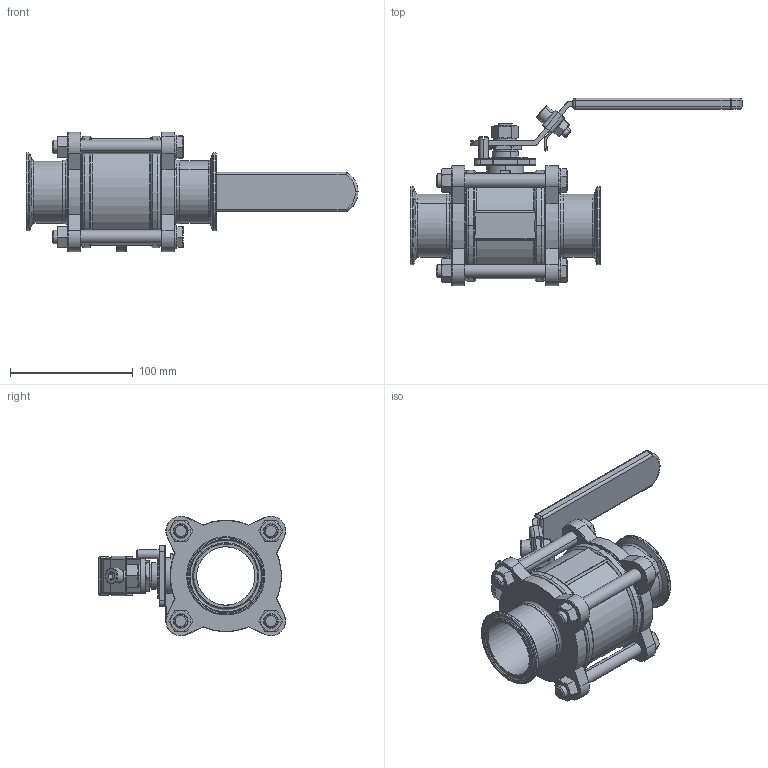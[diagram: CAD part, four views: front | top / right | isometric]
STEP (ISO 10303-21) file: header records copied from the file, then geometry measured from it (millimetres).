
FILE_DESCRIPTION (( 'STEP AP203' ), '1' );
FILE_NAME ('BAV-C-2.0.STEP', '2019-06-17T05:46:06', ( '' ), ( '' ), 'SwSTEP 2.0', 'SolidWorks 2014', '' );
FILE_SCHEMA (( 'CONFIG_CONTROL_DESIGN' ));
Length unit declared in the file: millimetre
Products named in the file (21): 2WAY-CAP-C-2.0; 2WAY-HANDLE-1.5-2.0-2; 2WAY-BOLT NUT-1.5-2.0; 2WAY-HANDLE-1.5-2.0; BAV-C-2.0; 2WAY-STEM-1.5-2.0; 2WAY-BODY-2.0; 2WAY-GASKET-2.0; 2WAY-HANDLE NUT-1.5-2.0; 2WAY-STEM PACKINGS-1.5-2.0; 2WAY-STOP PIN-1.5-2.0; 2WAY-HANDLE-1.5-2.0-1; 2WAY-BOLT WASHERS-1.5-2.0; 2WAY-HANDLE-1.5-2.0-3-1; 2WAY-HANDLE WASHERS-1.5-2.0; 2WAY-THRUST WASHER-1.5-2.0; 2WAY-SEAT-2.0; 2WAY-HANDLE-1.5-2.0-3; 2WAY-GLAND-1.5-2.0; 2WAY-BALL-2.0; 2WAY-BOLT-2.0
Assembly tree (32 placements, depth 2):
  BAV-C-2.0
    2WAY-BODY-2.0
    2WAY-STEM-1.5-2.0
    2WAY-THRUST WASHER-1.5-2.0
    2WAY-BALL-2.0
    2WAY-SEAT-2.0  x2
    2WAY-STEM PACKINGS-1.5-2.0
    2WAY-GLAND-1.5-2.0
    2WAY-GASKET-2.0  x2
    2WAY-HANDLE NUT-1.5-2.0
    2WAY-HANDLE WASHERS-1.5-2.0
    2WAY-HANDLE-1.5-2.0-1
    2WAY-HANDLE-1.5-2.0-2
    2WAY-HANDLE-1.5-2.0-3
    2WAY-HANDLE-1.5-2.0-3-1
    2WAY-HANDLE-1.5-2.0
    2WAY-CAP-C-2.0  x2
    2WAY-STOP PIN-1.5-2.0
    2WAY-BOLT NUT-1.5-2.0  x4
    2WAY-BOLT WASHERS-1.5-2.0  x4
    2WAY-BOLT-2.0  x4
Bounding box: 271.01 x 152.82 x 97.69 mm (x, y, z)
Volume: 562638.8 mm3; surface area: 245966.7 mm2
Topology: 32 solids, 32 shells, 1026 faces, 2332 edges, 1362 vertices
Faces by surface type: cylinder 371, plane 244, torus 191, cone 145, sphere 43, bspline 32
Entity records: 26114 total; most frequent: CARTESIAN_POINT 5696, DIRECTION 4120, ORIENTED_EDGE 3520, EDGE_CURVE 1760, AXIS2_PLACEMENT_3D 1746, VERTEX_POINT 1027, CIRCLE 955, EDGE_LOOP 859
